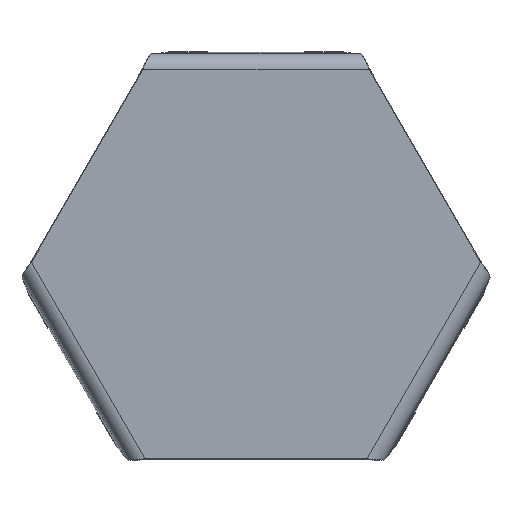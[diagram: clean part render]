
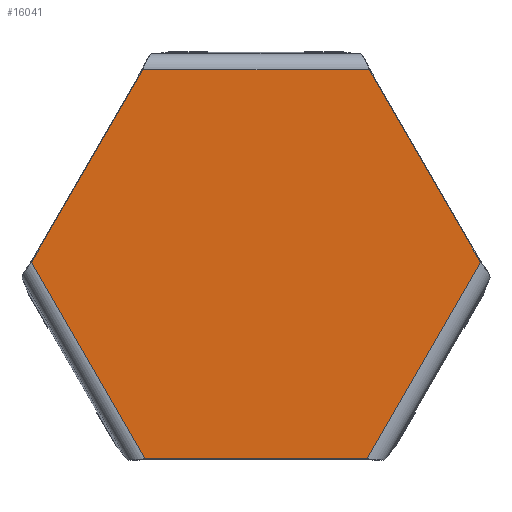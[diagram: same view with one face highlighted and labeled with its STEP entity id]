
A CAD part, top view. The second image highlights one B-rep face of the part: STEP entity #16041.
In plain terms, the highlighted planar face has unit normal (0, 0, 1).
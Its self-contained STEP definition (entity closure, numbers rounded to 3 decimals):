
#11097=CARTESIAN_POINT('',(-175.706,300.,0.));
#11098=VERTEX_POINT('',#11097);
#11166=CARTESIAN_POINT('',(-175.9,299.55,0.0));
#11167=VERTEX_POINT('',#11166);
#11168=CARTESIAN_POINT('',(-175.9,299.55,0.0));
#11169=CARTESIAN_POINT('',(-175.892,299.568,0.0));
#11170=CARTESIAN_POINT('',(-175.885,299.586,0.0));
#11171=CARTESIAN_POINT('',(-175.82,299.736,0.0));
#11172=CARTESIAN_POINT('',(-175.763,299.868,0.0));
#11173=CARTESIAN_POINT('',(-175.706,300.,0.0));
#11174=B_SPLINE_CURVE_WITH_KNOTS('',3,(#11168,#11169,#11170,#11171,#11172,#11173),.UNSPECIFIED.,.F.,.U.,(4,2,4),(-1.464,-1.459,-1.415),.UNSPECIFIED.);
#11175=EDGE_CURVE('',#11167,#11098,#11174,.T.);
#11198=CARTESIAN_POINT('',(-347.368,2.559,0.0));
#11199=VERTEX_POINT('',#11198);
#11210=CARTESIAN_POINT('',(-347.368,2.559,0.0));
#11211=DIRECTION('',(0.5,0.866,0.0));
#11212=VECTOR('',#11211,342.937);
#11213=LINE('',#11210,#11212);
#11214=EDGE_CURVE('',#11199,#11167,#11213,.T.);
#11225=CARTESIAN_POINT('',(175.9,299.55,0.0));
#11226=VERTEX_POINT('',#11225);
#11227=CARTESIAN_POINT('',(347.368,2.559,0.0));
#11228=VERTEX_POINT('',#11227);
#11229=CARTESIAN_POINT('',(175.9,299.55,0.0));
#11230=DIRECTION('',(0.5,-0.866,0.0));
#11231=VECTOR('',#11230,342.937);
#11232=LINE('',#11229,#11231);
#11233=EDGE_CURVE('',#11226,#11228,#11232,.T.);
#11389=CARTESIAN_POINT('',(-347.661,2.166,0.));
#11390=VERTEX_POINT('',#11389);
#12913=CARTESIAN_POINT('',(-171.955,-302.166,0.));
#12914=VERTEX_POINT('',#12913);
#12982=CARTESIAN_POINT('',(-171.468,-302.109,0.0));
#12983=VERTEX_POINT('',#12982);
#12984=CARTESIAN_POINT('',(-171.468,-302.109,0.0));
#12985=CARTESIAN_POINT('',(-171.487,-302.111,0.0));
#12986=CARTESIAN_POINT('',(-171.507,-302.113,0.0));
#12987=CARTESIAN_POINT('',(-171.669,-302.132,0.0));
#12988=CARTESIAN_POINT('',(-171.812,-302.149,0.0));
#12989=CARTESIAN_POINT('',(-171.955,-302.166,0.0));
#12990=B_SPLINE_CURVE_WITH_KNOTS('',3,(#12984,#12985,#12986,#12987,#12988,#12989),.UNSPECIFIED.,.F.,.U.,(4,2,4),(-1.481,-1.476,-1.432),.UNSPECIFIED.);
#12991=EDGE_CURVE('',#12983,#12914,#12990,.T.);
#13029=CARTESIAN_POINT('',(171.468,-302.109,0.0));
#13030=VERTEX_POINT('',#13029);
#13041=CARTESIAN_POINT('',(171.468,-302.109,0.0));
#13042=DIRECTION('',(-1.0,0.0,0.0));
#13043=VECTOR('',#13042,342.937);
#13044=LINE('',#13041,#13043);
#13045=EDGE_CURVE('',#13030,#12983,#13044,.T.);
#13175=CARTESIAN_POINT('',(171.955,-302.166,0.));
#13176=VERTEX_POINT('',#13175);
#13283=CARTESIAN_POINT('',(171.955,-302.166,0.0));
#13284=CARTESIAN_POINT('',(171.812,-302.149,0.0));
#13285=CARTESIAN_POINT('',(171.669,-302.132,0.0));
#13286=CARTESIAN_POINT('',(171.507,-302.113,0.0));
#13287=CARTESIAN_POINT('',(171.488,-302.111,0.0));
#13288=CARTESIAN_POINT('',(171.468,-302.109,0.0));
#13289=B_SPLINE_CURVE_WITH_KNOTS('',3,(#13283,#13284,#13285,#13286,#13287,#13288),.UNSPECIFIED.,.F.,.U.,(4,2,4),(-0.043,0.0,0.006),.UNSPECIFIED.);
#13290=EDGE_CURVE('',#13176,#13030,#13289,.T.);
#14087=CARTESIAN_POINT('',(347.661,2.166,0.));
#14088=VERTEX_POINT('',#14087);
#14192=CARTESIAN_POINT('',(347.368,2.559,0.0));
#14193=CARTESIAN_POINT('',(347.38,2.543,0.0));
#14194=CARTESIAN_POINT('',(347.391,2.527,0.0));
#14195=CARTESIAN_POINT('',(347.489,2.396,0.0));
#14196=CARTESIAN_POINT('',(347.575,2.281,0.0));
#14197=CARTESIAN_POINT('',(347.661,2.166,0.0));
#14198=B_SPLINE_CURVE_WITH_KNOTS('',3,(#14192,#14193,#14194,#14195,#14196,#14197),.UNSPECIFIED.,.F.,.U.,(4,2,4),(-1.485,-1.479,-1.436),.UNSPECIFIED.);
#14199=EDGE_CURVE('',#11228,#14088,#14198,.T.);
#14234=CARTESIAN_POINT('',(-347.661,2.166,0.0));
#14235=CARTESIAN_POINT('',(-347.575,2.281,0.0));
#14236=CARTESIAN_POINT('',(-347.489,2.397,0.0));
#14237=CARTESIAN_POINT('',(-347.391,2.528,0.0));
#14238=CARTESIAN_POINT('',(-347.38,2.543,0.0));
#14239=CARTESIAN_POINT('',(-347.368,2.559,0.0));
#14240=B_SPLINE_CURVE_WITH_KNOTS('',3,(#14234,#14235,#14236,#14237,#14238,#14239),.UNSPECIFIED.,.F.,.U.,(4,2,4),(-0.043,0.0,0.006),.UNSPECIFIED.);
#14241=EDGE_CURVE('',#11390,#11199,#14240,.T.);
#14369=CARTESIAN_POINT('',(175.706,300.,0.));
#14370=VERTEX_POINT('',#14369);
#14439=CARTESIAN_POINT('',(175.706,300.,0.0));
#14440=CARTESIAN_POINT('',(175.763,299.868,0.0));
#14441=CARTESIAN_POINT('',(175.82,299.736,0.0));
#14442=CARTESIAN_POINT('',(175.884,299.586,0.0));
#14443=CARTESIAN_POINT('',(175.892,299.568,0.0));
#14444=CARTESIAN_POINT('',(175.9,299.55,0.0));
#14445=B_SPLINE_CURVE_WITH_KNOTS('',3,(#14439,#14440,#14441,#14442,#14443,#14444),.UNSPECIFIED.,.F.,.U.,(4,2,4),(-0.043,0.0,0.006),.UNSPECIFIED.);
#14446=EDGE_CURVE('',#14370,#11226,#14445,.T.);
#15760=CARTESIAN_POINT('',(175.706,300.,0.0));
#15761=DIRECTION('',(-1.0,0.0,0.0));
#15762=VECTOR('',#15761,351.411);
#15763=LINE('',#15760,#15762);
#15764=EDGE_CURVE('',#14370,#11098,#15763,.T.);
#15981=CARTESIAN_POINT('',(171.955,-302.166,0.0));
#15982=DIRECTION('',(0.5,0.866,0.0));
#15983=VECTOR('',#15982,351.411);
#15984=LINE('',#15981,#15983);
#15985=EDGE_CURVE('',#13176,#14088,#15984,.T.);
#16017=CARTESIAN_POINT('',(-0.001,-0.004,0.0));
#16018=DIRECTION('',(0.0,0.0,1.0));
#16019=DIRECTION('',(1.0,0.0,0.0));
#16020=AXIS2_PLACEMENT_3D('',#16017,#16018,#16019);
#16021=PLANE('',#16020);
#16022=ORIENTED_EDGE('',*,*,#13290,.F.);
#16023=ORIENTED_EDGE('',*,*,#15985,.T.);
#16024=ORIENTED_EDGE('',*,*,#14199,.F.);
#16025=ORIENTED_EDGE('',*,*,#11233,.F.);
#16026=ORIENTED_EDGE('',*,*,#14446,.F.);
#16027=ORIENTED_EDGE('',*,*,#15764,.T.);
#16028=ORIENTED_EDGE('',*,*,#11175,.F.);
#16029=ORIENTED_EDGE('',*,*,#11214,.F.);
#16030=ORIENTED_EDGE('',*,*,#14241,.F.);
#16031=CARTESIAN_POINT('',(-347.661,2.166,0.0));
#16032=DIRECTION('',(0.5,-0.866,0.0));
#16033=VECTOR('',#16032,351.412);
#16034=LINE('',#16031,#16033);
#16035=EDGE_CURVE('',#11390,#12914,#16034,.T.);
#16036=ORIENTED_EDGE('',*,*,#16035,.T.);
#16037=ORIENTED_EDGE('',*,*,#12991,.F.);
#16038=ORIENTED_EDGE('',*,*,#13045,.F.);
#16039=EDGE_LOOP('',(#16022,#16023,#16024,#16025,#16026,#16027,#16028,#16029,#16030,#16036,#16037,#16038));
#16040=FACE_OUTER_BOUND('',#16039,.T.);
#16041=ADVANCED_FACE('',(#16040),#16021,.T.);
